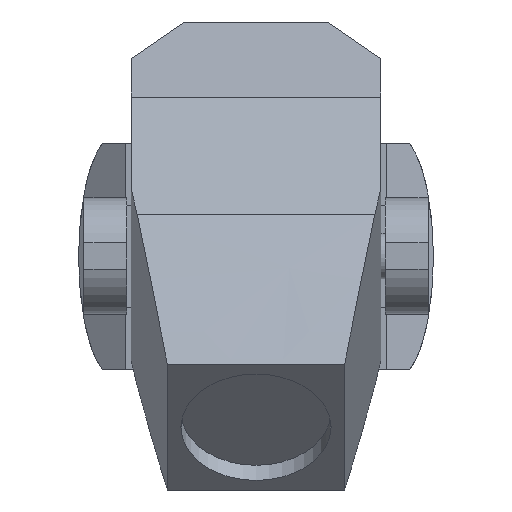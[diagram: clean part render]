
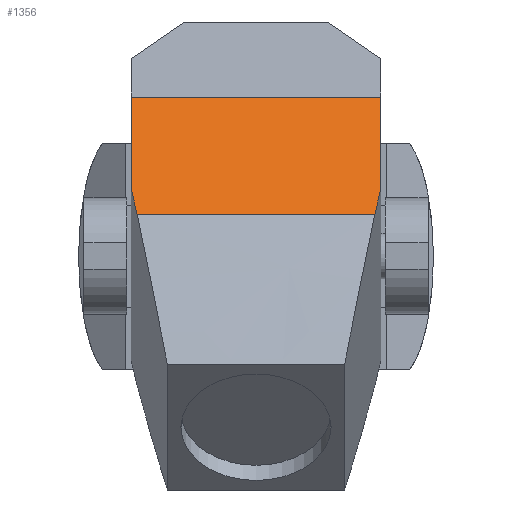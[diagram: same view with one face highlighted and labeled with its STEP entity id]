
A CAD part, top view. The second image highlights one B-rep face of the part: STEP entity #1356.
In plain terms, the highlighted planar face has unit normal (0, 0.707, 0.707) as drawn and (0, 1, 0) by its records, which use the part's own axes.
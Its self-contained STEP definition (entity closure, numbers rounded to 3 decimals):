
#112=PLANE('',#1564);
#186=FACE_OUTER_BOUND('',#268,.T.);
#268=EDGE_LOOP('',(#1245,#1246,#1247,#1248,#1249,#1250));
#385=LINE('',#2509,#526);
#392=LINE('',#2670,#533);
#407=LINE('',#2734,#548);
#408=LINE('',#2737,#549);
#410=LINE('',#2814,#551);
#411=LINE('',#2815,#552);
#526=VECTOR('',#1874,10.);
#533=VECTOR('',#1883,10.);
#548=VECTOR('',#1906,10.);
#549=VECTOR('',#1909,10.);
#551=VECTOR('',#1913,10.);
#552=VECTOR('',#1914,10.);
#690=VERTEX_POINT('',#2506);
#691=VERTEX_POINT('',#2508);
#698=VERTEX_POINT('',#2596);
#707=VERTEX_POINT('',#2728);
#709=VERTEX_POINT('',#2732);
#710=VERTEX_POINT('',#2736);
#865=EDGE_CURVE('',#690,#691,#385,.T.);
#874=EDGE_CURVE('',#698,#690,#392,.T.);
#890=EDGE_CURVE('',#707,#709,#407,.T.);
#891=EDGE_CURVE('',#710,#707,#408,.T.);
#894=EDGE_CURVE('',#691,#709,#410,.T.);
#895=EDGE_CURVE('',#698,#710,#411,.T.);
#1245=ORIENTED_EDGE('',*,*,#891,.T.);
#1246=ORIENTED_EDGE('',*,*,#890,.T.);
#1247=ORIENTED_EDGE('',*,*,#894,.F.);
#1248=ORIENTED_EDGE('',*,*,#865,.F.);
#1249=ORIENTED_EDGE('',*,*,#874,.F.);
#1250=ORIENTED_EDGE('',*,*,#895,.T.);
#1356=ADVANCED_FACE('',(#186),#112,.T.);
#1564=AXIS2_PLACEMENT_3D('',#2813,#1911,#1912);
#1874=DIRECTION('',(0.,0.,-1.));
#1883=DIRECTION('',(-0.165,0.,-0.986));
#1906=DIRECTION('',(0.,0.,-1.));
#1909=DIRECTION('',(0.165,0.,-0.986));
#1911=DIRECTION('center_axis',(0.,1.,0.));
#1912=DIRECTION('ref_axis',(0.,0.,1.));
#1913=DIRECTION('',(1.,0.,0.));
#1914=DIRECTION('',(1.,0.,0.));
#2506=CARTESIAN_POINT('',(-135.845,131.729,491.21));
#2508=CARTESIAN_POINT('',(-135.845,131.729,349.972));
#2509=CARTESIAN_POINT('',(-135.845,131.729,312.826));
#2596=CARTESIAN_POINT('',(-129.244,131.729,530.636));
#2670=CARTESIAN_POINT('',(-142.344,131.729,452.395));
#2728=CARTESIAN_POINT('',(135.845,131.729,491.21));
#2732=CARTESIAN_POINT('',(135.845,131.729,349.972));
#2734=CARTESIAN_POINT('',(135.845,131.729,312.826));
#2736=CARTESIAN_POINT('',(129.244,131.729,530.636));
#2737=CARTESIAN_POINT('',(142.344,131.729,452.395));
#2813=CARTESIAN_POINT('Origin',(0.,131.729,349.972));
#2814=CARTESIAN_POINT('',(0.,131.729,349.972));
#2815=CARTESIAN_POINT('',(0.,131.729,530.636));
